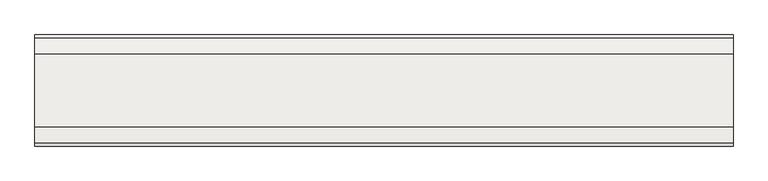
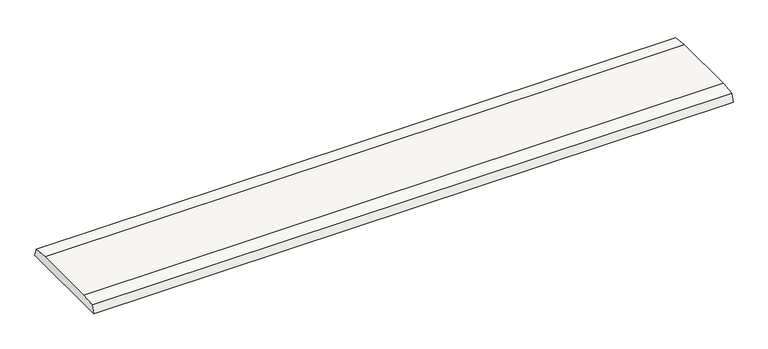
"""IFC4 building model written with IfcOpenShell, lengths in millimetres: slab geometry, ROSA GRES_245 FL_Colocación en plano : Rejilla 245 FL_Tresor_Java_Anti-Slip."""

from ifc_helpers import new_model, si_unit, point, frame, frame_2d, origin, place, context, project, spatial, polyline, circle_curve, trimmed, segment, composite_curve, outline, extrude, source, transform, mapped, element, save


def slab_14fbaea6(model_context):
    return source(origin(), model_context, "Body", "SweptSolid", [
        extrude(outline(composite_curve([segment(trimmed(circle_curve(frame_2d((-159.1366814, -720.2412375)), 721.556477), [point((-238.1232639, -3.0209998))], [point((-202.6833158, 0.0))], False, "CARTESIAN"), True, "CONTINUOUS"), segment(polyline([(-202.6833158, 0.0), (-42.7380732, 0.0)]), True, "CONTINUOUS"), segment(trimmed(circle_curve(frame_2d((-86.2847076, -720.2412375)), 721.556477), [point((-42.7380732, 0.0))], [point((-6.8503894, -3.0704499))], False, "CARTESIAN"), True, "CONTINUOUS"), segment(polyline([(-6.8503894, -3.0704499), (-0.9482737, -22.0), (-244.0502169, -22.0), (-238.1232639, -3.0209998)]), True, "CONTINUOUS")], self_intersect=False)), frame((0.0, 0.0, 0.0), z_axis=(1.0, 0.0, 0.0), x_axis=(0.0, 1.0, 0.0)), (0.0, 0.0, 1.0), 1526.9593181),
    ])


if __name__ == "__main__":
    model = new_model("IFC4")
    model_context = context("Model", 3, world=origin())
    ifc_project = project(units=[si_unit("LENGTHUNIT", "METRE", prefix="MILLI")], contexts=[model_context])
    site = spatial("IfcSite", under=ifc_project)
    building = spatial("IfcBuilding", under=site)
    placement = place(None, origin())
    slab_shape = slab_14fbaea6(model_context)
    element("IfcSlab", 1, ObjectType="ROSA GRES_245 FL_Colocación en plano : Rejilla 245 FL_Tresor_Java_Anti-Slip", at=placement, inside=building, context=model_context, shape_type="MappedRepresentation", body=[
        mapped(slab_shape, transform((0.0, 0.0, 0.0), x_axis=(1.0, 0.0, 0.0), y_axis=(0.0, 1.0, 0.0), z_axis=(0.0, 0.0, 1.0))),
    ])
    save(model, "model.ifc")
